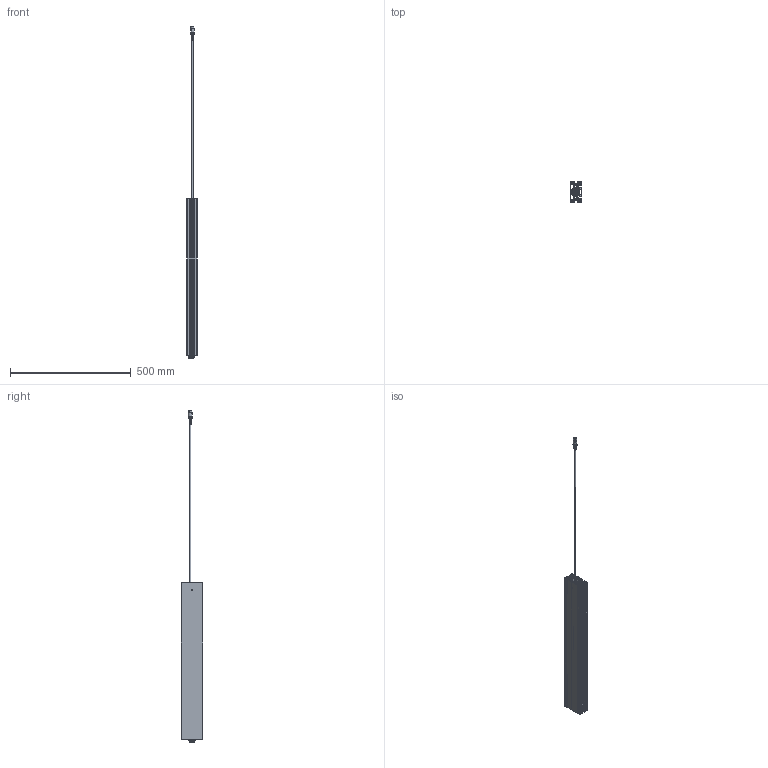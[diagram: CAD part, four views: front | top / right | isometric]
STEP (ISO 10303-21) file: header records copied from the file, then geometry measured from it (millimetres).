
FILE_DESCRIPTION (( 'STEP AP214' ), '1' );
FILE_NAME ('004 10274_ZB Actuator SMS-B 45x90_Hub300_eingefahren.STEP', '2018-09-03T09:09:00', ( '' ), ( '' ), 'SwSTEP 2.0', 'SolidWorks 2017', '' );
FILE_SCHEMA (( 'AUTOMOTIVE_DESIGN' ));
Length unit declared in the file: millimetre
Products named in the file (1): 004 10274_ZB Actuator SMS-B 45x90_Hub300_eingefahren
Bounding box: 45 x 90 x 1375.6 mm (x, y, z)
Surface area: 793532.5 mm2 (no closed solid volume)
Topology: 0 solids, 6 shells, 3001 faces, 8204 edges, 5057 vertices
Faces by surface type: plane 971, bspline 904, cylinder 716, cone 289, torus 81, sphere 40
Entity records: 163809 total; most frequent: CARTESIAN_POINT 86561, ORIENTED_EDGE 15944, DIRECTION 11325, EDGE_CURVE 7975, VERTEX_POINT 5053, AXIS2_PLACEMENT_3D 4224, EDGE_LOOP 3121, FACE_OUTER_BOUND 3001
